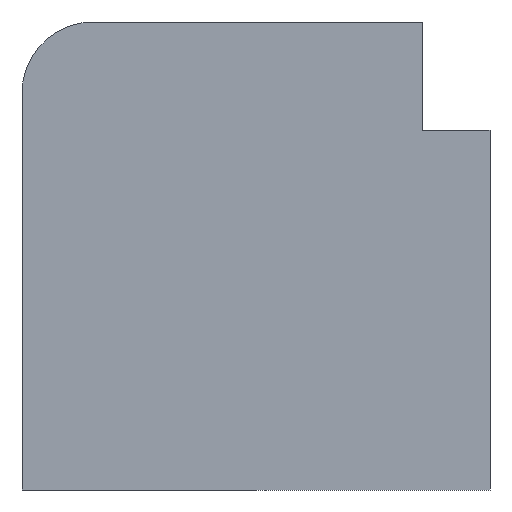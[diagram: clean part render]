
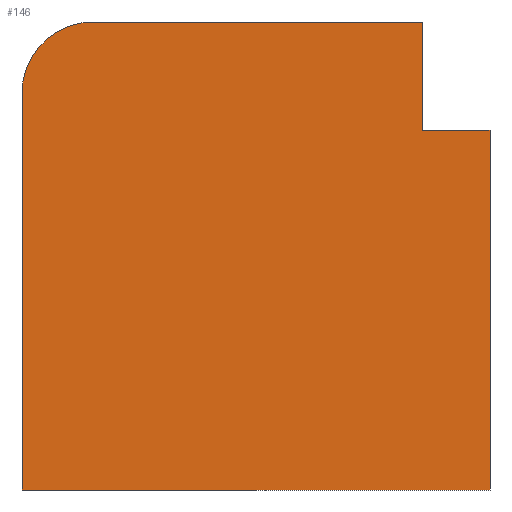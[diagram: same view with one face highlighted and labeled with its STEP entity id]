
A CAD part, left-side view. The second image highlights one B-rep face of the part: STEP entity #146.
In plain terms, the highlighted planar face has unit normal (-1, 0, 0).
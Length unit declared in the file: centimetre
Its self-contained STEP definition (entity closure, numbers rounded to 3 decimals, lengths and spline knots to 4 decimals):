
#27 = CARTESIAN_POINT ( 'NONE',  ( 0., 0., 0. ) ) ;
#30 = EDGE_CURVE ( 'NONE', #238, #919, #862, .T. ) ;
#62 = EDGE_LOOP ( 'NONE', ( #891, #107, #802, #673, #838, #202, #521 ) ) ;
#80 = EDGE_CURVE ( 'NONE', #531, #919, #295, .T. ) ;
#95 = DIRECTION ( 'NONE',  ( 0., 0., -1. ) ) ;
#107 = ORIENTED_EDGE ( 'NONE', *, *, #30, .T. ) ;
#108 = DIRECTION ( 'NONE',  ( 0., -1., 0. ) ) ;
#115 = CARTESIAN_POINT ( 'NONE',  ( 0., 143.5798, 768.4058 ) ) ;
#119 = AXIS2_PLACEMENT_3D ( 'NONE', #697, #936, #377 ) ;
#146 = ADVANCED_FACE ( 'NONE', ( #370 ), #624, .F. ) ;
#156 = DIRECTION ( 'NONE',  ( 0., 0., 1. ) ) ;
#159 = CARTESIAN_POINT ( 'NONE',  ( 0., 1000., 0. ) ) ;
#200 = DIRECTION ( 'NONE',  ( 0., 0., -1. ) ) ;
#201 = CARTESIAN_POINT ( 'NONE',  ( 0., 1000., 847.5958 ) ) ;
#202 = ORIENTED_EDGE ( 'NONE', *, *, #868, .T. ) ;
#220 = VERTEX_POINT ( 'NONE', #27 ) ;
#237 = CARTESIAN_POINT ( 'NONE',  ( 0., 1000., 1000. ) ) ;
#238 = VERTEX_POINT ( 'NONE', #115 ) ;
#273 = EDGE_CURVE ( 'NONE', #506, #220, #409, .T. ) ;
#295 = LINE ( 'NONE', #237, #415 ) ;
#300 = CIRCLE ( 'NONE', #119, 152.4042 ) ;
#321 = CARTESIAN_POINT ( 'NONE',  ( 0., 0., 1000. ) ) ;
#370 = FACE_OUTER_BOUND ( 'NONE', #62, .T. ) ;
#377 = DIRECTION ( 'NONE',  ( 0., 0., -1. ) ) ;
#394 = EDGE_CURVE ( 'NONE', #986, #695, #753, .T. ) ;
#404 = DIRECTION ( 'NONE',  ( 0., 0., -1. ) ) ;
#409 = LINE ( 'NONE', #321, #653 ) ;
#415 = VECTOR ( 'NONE', #840, 100. ) ;
#438 = CARTESIAN_POINT ( 'NONE',  ( 0., 847.5958, 1000. ) ) ;
#483 = CARTESIAN_POINT ( 'NONE',  ( 0., 1000., 1000. ) ) ;
#506 = VERTEX_POINT ( 'NONE', #997 ) ;
#511 = CARTESIAN_POINT ( 'NONE',  ( 0., 143.5798, 1000. ) ) ;
#521 = ORIENTED_EDGE ( 'NONE', *, *, #273, .F. ) ;
#531 = VERTEX_POINT ( 'NONE', #438 ) ;
#547 = VECTOR ( 'NONE', #200, 100. ) ;
#565 = LINE ( 'NONE', #647, #674 ) ;
#578 = EDGE_CURVE ( 'NONE', #531, #986, #300, .T. ) ;
#624 = PLANE ( 'NONE',  #875 ) ;
#647 = CARTESIAN_POINT ( 'NONE',  ( 0., 1000., 0. ) ) ;
#653 = VECTOR ( 'NONE', #95, 100. ) ;
#673 = ORIENTED_EDGE ( 'NONE', *, *, #578, .T. ) ;
#674 = VECTOR ( 'NONE', #108, 100. ) ;
#695 = VERTEX_POINT ( 'NONE', #159 ) ;
#697 = CARTESIAN_POINT ( 'NONE',  ( 0., 847.5958, 847.5958 ) ) ;
#702 = CARTESIAN_POINT ( 'NONE',  ( 0., 143.5798, 768.4058 ) ) ;
#722 = LINE ( 'NONE', #781, #857 ) ;
#727 = DIRECTION ( 'NONE',  ( 1., 0., 0. ) ) ;
#748 = EDGE_CURVE ( 'NONE', #238, #506, #722, .T. ) ;
#753 = LINE ( 'NONE', #905, #547 ) ;
#781 = CARTESIAN_POINT ( 'NONE',  ( 0., 143.5798, 768.4058 ) ) ;
#797 = VECTOR ( 'NONE', #156, 100. ) ;
#802 = ORIENTED_EDGE ( 'NONE', *, *, #80, .F. ) ;
#838 = ORIENTED_EDGE ( 'NONE', *, *, #394, .T. ) ;
#840 = DIRECTION ( 'NONE',  ( 0., -1., 0. ) ) ;
#857 = VECTOR ( 'NONE', #870, 100. ) ;
#862 = LINE ( 'NONE', #702, #797 ) ;
#868 = EDGE_CURVE ( 'NONE', #695, #220, #565, .T. ) ;
#870 = DIRECTION ( 'NONE',  ( 0., -1., 0. ) ) ;
#875 = AXIS2_PLACEMENT_3D ( 'NONE', #483, #727, #404 ) ;
#891 = ORIENTED_EDGE ( 'NONE', *, *, #748, .F. ) ;
#905 = CARTESIAN_POINT ( 'NONE',  ( 0., 1000., 1000. ) ) ;
#919 = VERTEX_POINT ( 'NONE', #511 ) ;
#936 = DIRECTION ( 'NONE',  ( -1., 0., 0. ) ) ;
#986 = VERTEX_POINT ( 'NONE', #201 ) ;
#997 = CARTESIAN_POINT ( 'NONE',  ( 0., 0., 768.4058 ) ) ;
